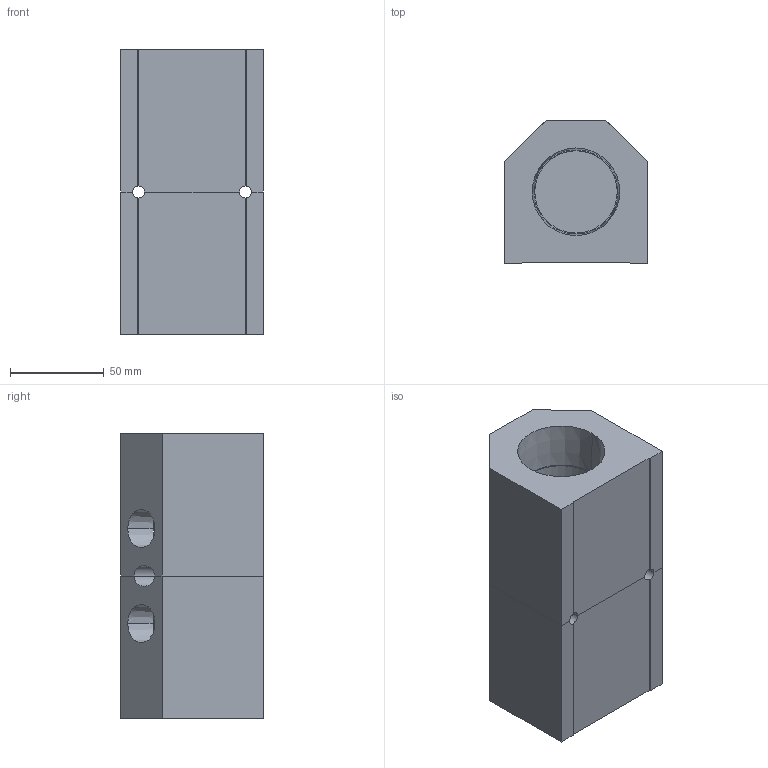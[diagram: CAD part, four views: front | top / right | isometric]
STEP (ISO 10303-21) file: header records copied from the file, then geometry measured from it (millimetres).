
FILE_DESCRIPTION (( 'STEP AP214' ), '1' );
FILE_NAME ('ALM2BD-N8N24-152RB.step', '2022-02-07T09:39:27', ( '' ), ( '' ), 'SwSTEP 2.0', 'SolidWorks 2020', '' );
FILE_SCHEMA (( 'AUTOMOTIVE_DESIGN' ));
Length unit declared in the file: millimetre
Products named in the file (1): ALM2BD-N8N24-152RB
Bounding box: 76.2 x 76.2 x 152 mm (x, y, z)
Volume: 542343.4 mm3; surface area: 87105.6 mm2
Topology: 2 solids, 2 shells, 341 faces, 895 edges, 596 vertices
Faces by surface type: plane 237, bspline 76, cylinder 16, cone 12
Entity records: 18575 total; most frequent: CARTESIAN_POINT 7541, ORIENTED_EDGE 1790, DIRECTION 1301, EDGE_CURVE 895, VECTOR 681, LINE 681, VERTEX_POINT 596, EDGE_LOOP 387
